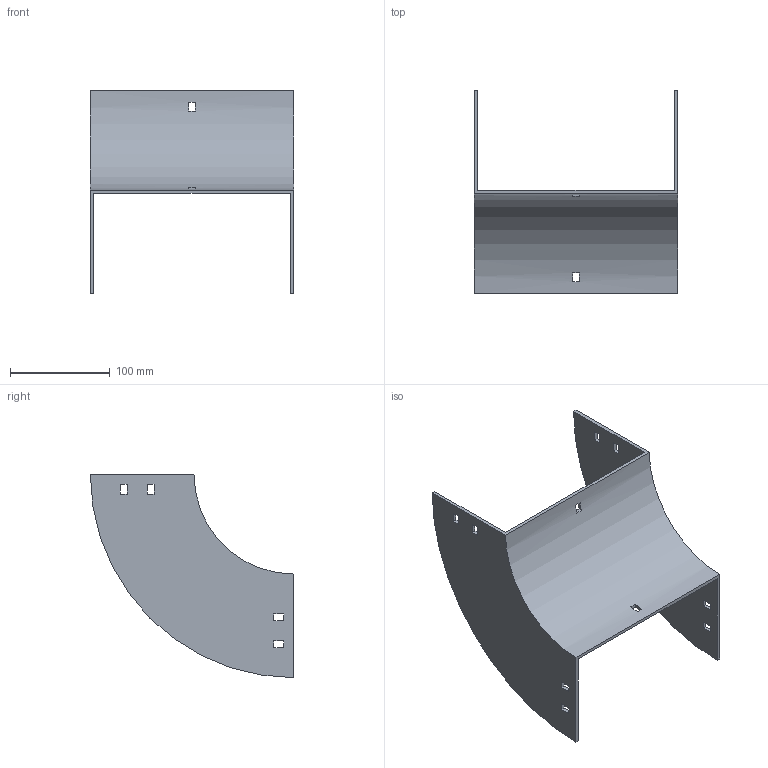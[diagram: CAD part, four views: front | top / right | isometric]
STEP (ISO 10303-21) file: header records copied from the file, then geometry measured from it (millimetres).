
FILE_DESCRIPTION (( 'STEP AP214' ), '1' );
FILE_NAME ('33B1D200.step', '2025-02-21T09:30:33', ( '' ), ( '' ), 'SwSTEP 2.0', 'SolidWorks 2023', '' );
FILE_SCHEMA (( 'AUTOMOTIVE_DESIGN' ));
Length unit declared in the file: millimetre
Products named in the file (1): 33B1D200
Bounding box: 204 x 204 x 204 mm (x, y, z)
Volume: 281644.7 mm3; surface area: 167170.7 mm2
Topology: 1 solids, 1 shells, 50 faces, 144 edges, 96 vertices
Faces by surface type: plane 46, cylinder 4
Entity records: 1687 total; most frequent: CARTESIAN_POINT 291, ORIENTED_EDGE 288, DIRECTION 262, EDGE_CURVE 144, VECTOR 128, LINE 128, VERTEX_POINT 96, EDGE_LOOP 70
